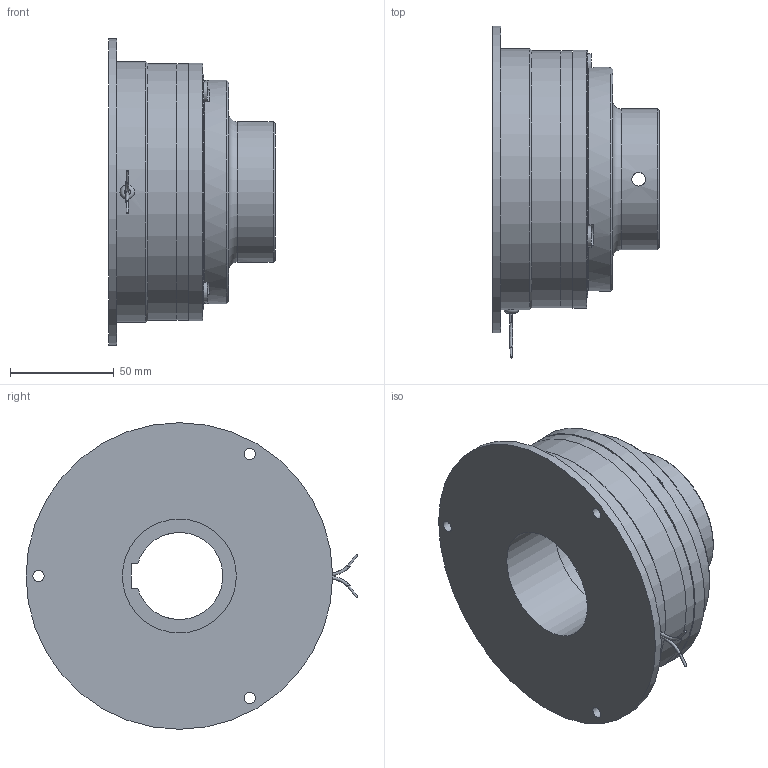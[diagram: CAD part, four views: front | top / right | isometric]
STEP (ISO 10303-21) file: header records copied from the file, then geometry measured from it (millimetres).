
FILE_DESCRIPTION(/* description */ (''),/* implementation_level */ '2;1');
FILE_NAME(/* name */ 'X:\INVENTOR\DISEGNI\08_Freni_Friz_Elettmag_Monodisco\08_28 EMFL_DF\EMFL_DF STEP\08_28_120_12 EMFL120_DF-C-ME@STEP.stp',/* time_stamp */ '2018-04-23T10:44:44+02:00',/* author */ ('stefano'),/* organization */ (''),/* preprocessor_version */ 'ST-DEVELOPER v17',/* originating_system */ 'Autodesk Inventor 2018',/* authorisation */ '');
FILE_SCHEMA (('AUTOMOTIVE_DESIGN { 1 0 10303 214 3 1 1 }'));
Length unit declared in the file: millimetre
Products named in the file (1): 08_28_120_12 EMFL120_DF-C-ME_Substitute_1
Bounding box: 80.5 x 160.22 x 148 mm (x, y, z)
Volume: 590090.2 mm3; surface area: 113734.7 mm2
Topology: 3 solids, 3 shells, 285 faces, 824 edges, 554 vertices
Faces by surface type: cylinder 164, plane 92, cone 22, torus 5, bspline 2
Full cylindrical faces by diameter (mm): 1.154 x2, 1.5 x1, 2.2 x3, 4.917 x3, 5.5 x3, 6 x1, 6.1 x6, 6.647 x2, 7.5 x3, 10 x3, 10.5 x3, 12 x3, 55 x2, 59 x1, 68 x1, 77 x1, 108 x1, 110.5 x1, 124 x2, 124.5 x1, 126 x1, 148 x1
Entity records: 10552 total; most frequent: CARTESIAN_POINT 2076, DIRECTION 1892, ORIENTED_EDGE 1644, AXIS2_PLACEMENT_3D 828, EDGE_CURVE 822, VERTEX_POINT 555, CIRCLE 544, EDGE_LOOP 359
